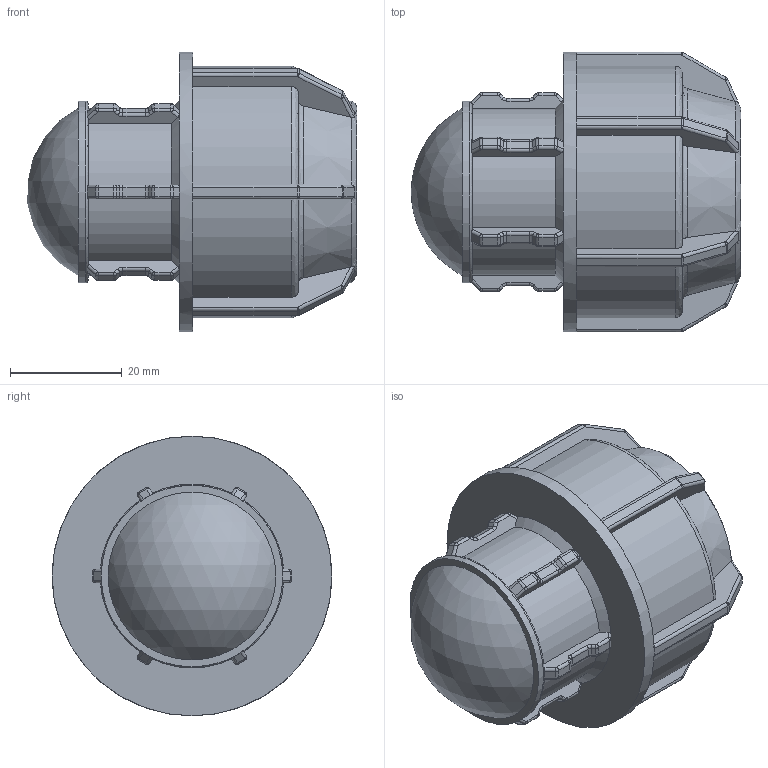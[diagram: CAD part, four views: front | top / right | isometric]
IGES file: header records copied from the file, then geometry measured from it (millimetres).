
Global section: file name: 141200025.ipt; native system: Autodesk Inventor 2015; preprocessor: unknown; author: KIM; date: 20180409.131137; units: millimetre
Bounding box: 58.87 x 50 x 50 mm (x, y, z)
Volume: 37280 mm3; surface area: 15310.5 mm2
Topology: 1 solids, 1 shells, 465 faces, 1151 edges, 687 vertices
Faces by surface type: cylinder 170, plane 156, revolution 126, cone 12, sphere 1
Full cylindrical faces by diameter (mm): 32.5 x1, 50 x1
